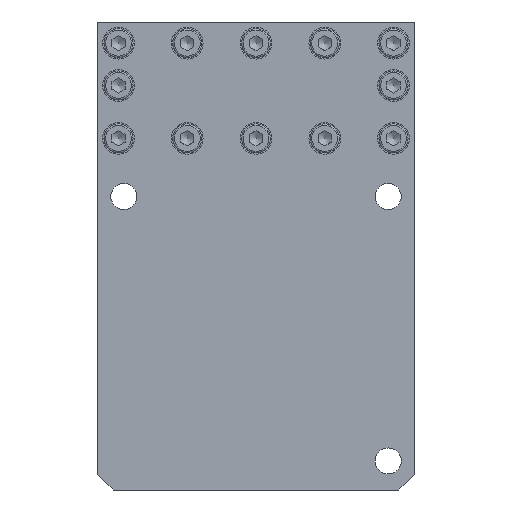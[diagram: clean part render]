
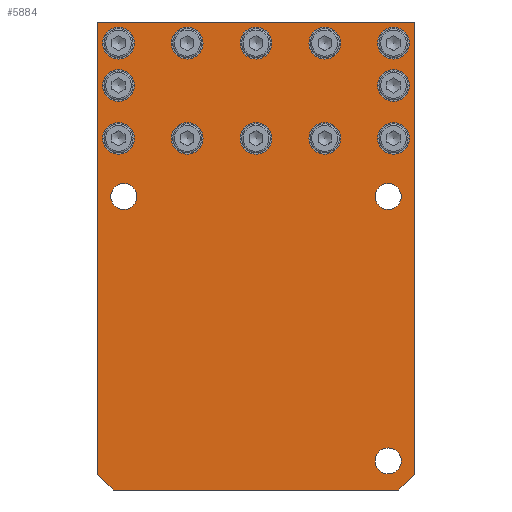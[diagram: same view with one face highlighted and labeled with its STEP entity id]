
A CAD part, front view. The second image highlights one B-rep face of the part: STEP entity #5884.
In plain terms, the highlighted planar face has unit normal (0, -1, 0).
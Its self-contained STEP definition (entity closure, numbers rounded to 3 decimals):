
#234=LINE($,#9514,#505);
#243=LINE($,#9533,#514);
#245=LINE($,#9540,#516);
#255=LINE($,#9676,#526);
#256=LINE($,#9678,#527);
#258=LINE($,#9711,#529);
#505=VECTOR($,#7664,60.);
#514=VECTOR($,#7677,85.5);
#516=VECTOR($,#7685,85.5);
#526=VECTOR($,#7853,54.);
#527=VECTOR($,#7856,4.243);
#529=VECTOR($,#7890,4.243);
#872=PLANE($,#6563);
#1260=FACE_BOUND($,#2226,.T.);
#1261=FACE_BOUND($,#2227,.T.);
#1262=FACE_BOUND($,#2228,.T.);
#1263=FACE_BOUND($,#2229,.T.);
#1264=FACE_BOUND($,#2230,.T.);
#1265=FACE_BOUND($,#2231,.T.);
#1266=FACE_BOUND($,#2232,.T.);
#1267=FACE_BOUND($,#2233,.T.);
#1268=FACE_BOUND($,#2234,.T.);
#1269=FACE_BOUND($,#2235,.T.);
#1270=FACE_BOUND($,#2236,.T.);
#1271=FACE_BOUND($,#2237,.T.);
#1272=FACE_BOUND($,#2238,.T.);
#1273=FACE_BOUND($,#2239,.T.);
#1274=FACE_BOUND($,#2240,.T.);
#1275=FACE_BOUND($,#2241,.T.);
#2226=EDGE_LOOP($,(#4798));
#2227=EDGE_LOOP($,(#4799));
#2228=EDGE_LOOP($,(#4800));
#2229=EDGE_LOOP($,(#4801));
#2230=EDGE_LOOP($,(#4802));
#2231=EDGE_LOOP($,(#4803));
#2232=EDGE_LOOP($,(#4804));
#2233=EDGE_LOOP($,(#4805));
#2234=EDGE_LOOP($,(#4806));
#2235=EDGE_LOOP($,(#4807));
#2236=EDGE_LOOP($,(#4808));
#2237=EDGE_LOOP($,(#4809));
#2238=EDGE_LOOP($,(#4810));
#2239=EDGE_LOOP($,(#4811));
#2240=EDGE_LOOP($,(#4812));
#2241=EDGE_LOOP($,(#4813,#4814,#4815,#4816,#4817,#4818));
#2773=CIRCLE($,#6564,2.459);
#2774=CIRCLE($,#6565,2.459);
#2775=CIRCLE($,#6566,2.459);
#2776=CIRCLE($,#6567,3.);
#2777=CIRCLE($,#6568,3.);
#2778=CIRCLE($,#6569,3.);
#2779=CIRCLE($,#6570,3.);
#2780=CIRCLE($,#6571,3.);
#2781=CIRCLE($,#6572,3.);
#2782=CIRCLE($,#6573,3.);
#2783=CIRCLE($,#6574,3.);
#2784=CIRCLE($,#6575,3.);
#2785=CIRCLE($,#6576,3.);
#2786=CIRCLE($,#6577,3.);
#2787=CIRCLE($,#6578,3.);
#3130=VERTEX_POINT($,#9511);
#3131=VERTEX_POINT($,#9513);
#3139=VERTEX_POINT($,#9531);
#3141=VERTEX_POINT($,#9539);
#3186=VERTEX_POINT($,#9670);
#3188=VERTEX_POINT($,#9674);
#3189=VERTEX_POINT($,#9681);
#3190=VERTEX_POINT($,#9683);
#3191=VERTEX_POINT($,#9685);
#3192=VERTEX_POINT($,#9687);
#3193=VERTEX_POINT($,#9689);
#3194=VERTEX_POINT($,#9691);
#3195=VERTEX_POINT($,#9693);
#3196=VERTEX_POINT($,#9695);
#3197=VERTEX_POINT($,#9697);
#3198=VERTEX_POINT($,#9699);
#3199=VERTEX_POINT($,#9701);
#3200=VERTEX_POINT($,#9703);
#3201=VERTEX_POINT($,#9705);
#3202=VERTEX_POINT($,#9707);
#3203=VERTEX_POINT($,#9709);
#3738=EDGE_CURVE($,#3131,#3130,#234,.T.);
#3748=EDGE_CURVE($,#3130,#3139,#243,.T.);
#3751=EDGE_CURVE($,#3141,#3131,#245,.T.);
#3799=EDGE_CURVE($,#3186,#3188,#255,.T.);
#3800=EDGE_CURVE($,#3141,#3188,#256,.T.);
#3802=EDGE_CURVE($,#3189,#3189,#2773,.T.);
#3803=EDGE_CURVE($,#3190,#3190,#2774,.T.);
#3804=EDGE_CURVE($,#3191,#3191,#2775,.T.);
#3805=EDGE_CURVE($,#3192,#3192,#2776,.T.);
#3806=EDGE_CURVE($,#3193,#3193,#2777,.T.);
#3807=EDGE_CURVE($,#3194,#3194,#2778,.T.);
#3808=EDGE_CURVE($,#3195,#3195,#2779,.T.);
#3809=EDGE_CURVE($,#3196,#3196,#2780,.T.);
#3810=EDGE_CURVE($,#3197,#3197,#2781,.T.);
#3811=EDGE_CURVE($,#3198,#3198,#2782,.T.);
#3812=EDGE_CURVE($,#3199,#3199,#2783,.T.);
#3813=EDGE_CURVE($,#3200,#3200,#2784,.T.);
#3814=EDGE_CURVE($,#3201,#3201,#2785,.T.);
#3815=EDGE_CURVE($,#3202,#3202,#2786,.T.);
#3816=EDGE_CURVE($,#3203,#3203,#2787,.T.);
#3817=EDGE_CURVE($,#3186,#3139,#258,.T.);
#4798=ORIENTED_EDGE($,*,*,#3802,.T.);
#4799=ORIENTED_EDGE($,*,*,#3803,.T.);
#4800=ORIENTED_EDGE($,*,*,#3804,.T.);
#4801=ORIENTED_EDGE($,*,*,#3805,.T.);
#4802=ORIENTED_EDGE($,*,*,#3806,.T.);
#4803=ORIENTED_EDGE($,*,*,#3807,.T.);
#4804=ORIENTED_EDGE($,*,*,#3808,.T.);
#4805=ORIENTED_EDGE($,*,*,#3809,.T.);
#4806=ORIENTED_EDGE($,*,*,#3810,.T.);
#4807=ORIENTED_EDGE($,*,*,#3811,.T.);
#4808=ORIENTED_EDGE($,*,*,#3812,.T.);
#4809=ORIENTED_EDGE($,*,*,#3813,.T.);
#4810=ORIENTED_EDGE($,*,*,#3814,.T.);
#4811=ORIENTED_EDGE($,*,*,#3815,.T.);
#4812=ORIENTED_EDGE($,*,*,#3816,.T.);
#4813=ORIENTED_EDGE($,*,*,#3817,.F.);
#4814=ORIENTED_EDGE($,*,*,#3799,.T.);
#4815=ORIENTED_EDGE($,*,*,#3800,.F.);
#4816=ORIENTED_EDGE($,*,*,#3751,.T.);
#4817=ORIENTED_EDGE($,*,*,#3738,.T.);
#4818=ORIENTED_EDGE($,*,*,#3748,.T.);
#5884=ADVANCED_FACE($,(#1260,#1261,#1262,#1263,#1264,#1265,#1266,#1267,
#1268,#1269,#1270,#1271,#1272,#1273,#1274,#1275),#872,.T.);
#6563=AXIS2_PLACEMENT_3D($,#9680,#7858,#7859);
#6564=AXIS2_PLACEMENT_3D($,#9682,#7860,#7861);
#6565=AXIS2_PLACEMENT_3D($,#9684,#7862,#7863);
#6566=AXIS2_PLACEMENT_3D($,#9686,#7864,#7865);
#6567=AXIS2_PLACEMENT_3D($,#9688,#7866,#7867);
#6568=AXIS2_PLACEMENT_3D($,#9690,#7868,#7869);
#6569=AXIS2_PLACEMENT_3D($,#9692,#7870,#7871);
#6570=AXIS2_PLACEMENT_3D($,#9694,#7872,#7873);
#6571=AXIS2_PLACEMENT_3D($,#9696,#7874,#7875);
#6572=AXIS2_PLACEMENT_3D($,#9698,#7876,#7877);
#6573=AXIS2_PLACEMENT_3D($,#9700,#7878,#7879);
#6574=AXIS2_PLACEMENT_3D($,#9702,#7880,#7881);
#6575=AXIS2_PLACEMENT_3D($,#9704,#7882,#7883);
#6576=AXIS2_PLACEMENT_3D($,#9706,#7884,#7885);
#6577=AXIS2_PLACEMENT_3D($,#9708,#7886,#7887);
#6578=AXIS2_PLACEMENT_3D($,#9710,#7888,#7889);
#7664=DIRECTION($,(-1.,0.,0.));
#7677=DIRECTION($,(0.,0.,-1.));
#7685=DIRECTION($,(0.,0.,1.));
#7853=DIRECTION($,(1.,0.,0.));
#7856=DIRECTION($,(-0.707,0.,-0.707));
#7858=DIRECTION('center_axis',(0.,-1.,0.));
#7859=DIRECTION('ref_axis',(1.,0.,0.));
#7860=DIRECTION('center_axis',(0.,1.,0.));
#7861=DIRECTION('ref_axis',(-1.,0.,0.));
#7862=DIRECTION('center_axis',(0.,1.,0.));
#7863=DIRECTION('ref_axis',(-1.,0.,0.));
#7864=DIRECTION('center_axis',(0.,1.,0.));
#7865=DIRECTION('ref_axis',(-1.,0.,0.));
#7866=DIRECTION('center_axis',(0.,1.,0.));
#7867=DIRECTION('ref_axis',(1.,0.,0.));
#7868=DIRECTION('center_axis',(0.,1.,0.));
#7869=DIRECTION('ref_axis',(1.,0.,0.));
#7870=DIRECTION('center_axis',(0.,1.,0.));
#7871=DIRECTION('ref_axis',(1.,0.,0.));
#7872=DIRECTION('center_axis',(0.,1.,0.));
#7873=DIRECTION('ref_axis',(1.,0.,0.));
#7874=DIRECTION('center_axis',(0.,1.,0.));
#7875=DIRECTION('ref_axis',(1.,0.,0.));
#7876=DIRECTION('center_axis',(0.,1.,0.));
#7877=DIRECTION('ref_axis',(1.,0.,0.));
#7878=DIRECTION('center_axis',(0.,1.,0.));
#7879=DIRECTION('ref_axis',(1.,0.,0.));
#7880=DIRECTION('center_axis',(0.,1.,0.));
#7881=DIRECTION('ref_axis',(1.,0.,0.));
#7882=DIRECTION('center_axis',(0.,1.,0.));
#7883=DIRECTION('ref_axis',(1.,0.,0.));
#7884=DIRECTION('center_axis',(0.,1.,0.));
#7885=DIRECTION('ref_axis',(1.,0.,0.));
#7886=DIRECTION('center_axis',(0.,1.,0.));
#7887=DIRECTION('ref_axis',(1.,0.,0.));
#7888=DIRECTION('center_axis',(0.,1.,0.));
#7889=DIRECTION('ref_axis',(1.,0.,0.));
#7890=DIRECTION($,(-0.707,0.,0.707));
#9511=CARTESIAN_POINT('',(-28.5,-8.,58.));
#9513=CARTESIAN_POINT('',(31.5,-8.,58.));
#9514=CARTESIAN_POINT($,(31.5,-8.,58.));
#9531=CARTESIAN_POINT('',(-28.5,-8.,-27.5));
#9533=CARTESIAN_POINT($,(-28.5,-8.,58.));
#9539=CARTESIAN_POINT('',(31.5,-8.,-27.5));
#9540=CARTESIAN_POINT($,(31.5,-8.,-30.5));
#9670=CARTESIAN_POINT('',(-25.5,-8.,-30.5));
#9674=CARTESIAN_POINT('',(28.5,-8.,-30.5));
#9676=CARTESIAN_POINT($,(-28.5,-8.,-30.5));
#9678=CARTESIAN_POINT($,(33.562,-8.,-25.437));
#9680=CARTESIAN_POINT('Origin',(1.5,-8.,13.75));
#9681=CARTESIAN_POINT('',(28.958,-8.,25.));
#9682=CARTESIAN_POINT('Origin',(26.5,-8.,25.));
#9683=CARTESIAN_POINT('',(28.958,-8.,-25.));
#9684=CARTESIAN_POINT('Origin',(26.5,-8.,-25.));
#9685=CARTESIAN_POINT('',(-21.042,-8.,25.));
#9686=CARTESIAN_POINT('Origin',(-23.5,-8.,25.));
#9687=CARTESIAN_POINT('',(30.5,-8.,36.));
#9688=CARTESIAN_POINT('Origin',(27.5,-8.,36.));
#9689=CARTESIAN_POINT('',(4.5,-8.,36.));
#9690=CARTESIAN_POINT('Origin',(1.5,-8.,36.));
#9691=CARTESIAN_POINT('',(-21.5,-8.,36.));
#9692=CARTESIAN_POINT('Origin',(-24.5,-8.,36.));
#9693=CARTESIAN_POINT('',(17.5,-8.,54.));
#9694=CARTESIAN_POINT('Origin',(14.5,-8.,54.));
#9695=CARTESIAN_POINT('',(4.5,-8.,54.));
#9696=CARTESIAN_POINT('Origin',(1.5,-8.,54.));
#9697=CARTESIAN_POINT('',(-21.5,-8.,54.));
#9698=CARTESIAN_POINT('Origin',(-24.5,-8.,54.));
#9699=CARTESIAN_POINT('',(-8.5,-8.,54.));
#9700=CARTESIAN_POINT('Origin',(-11.5,-8.,54.));
#9701=CARTESIAN_POINT('',(30.5,-8.,54.));
#9702=CARTESIAN_POINT('Origin',(27.5,-8.,54.));
#9703=CARTESIAN_POINT('',(-21.5,-8.,46.));
#9704=CARTESIAN_POINT('Origin',(-24.5,-8.,46.));
#9705=CARTESIAN_POINT('',(-8.5,-8.,36.));
#9706=CARTESIAN_POINT('Origin',(-11.5,-8.,36.));
#9707=CARTESIAN_POINT('',(17.5,-8.,36.));
#9708=CARTESIAN_POINT('Origin',(14.5,-8.,36.));
#9709=CARTESIAN_POINT('',(30.5,-8.,46.));
#9710=CARTESIAN_POINT('Origin',(27.5,-8.,46.));
#9711=CARTESIAN_POINT($,(-30.563,-8.,-25.437));
